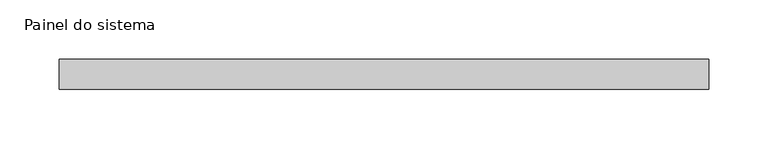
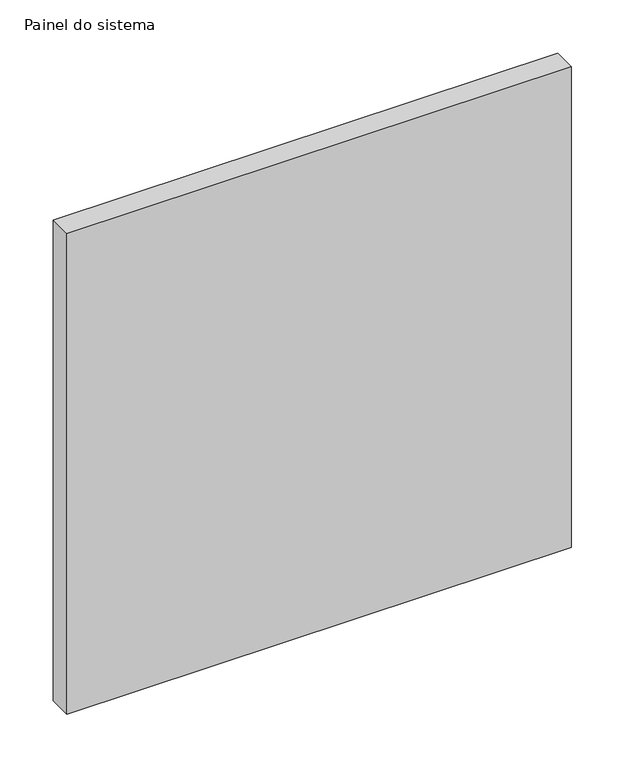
"""IFC4 building model written with IfcOpenShell, lengths in millimetres: plate geometry, Painel do sistema : Envidraçado."""

from ifc_helpers import new_model, si_unit, origin, origin_with_axes, place, context, project, spatial, polyline, outline, extrude, source, transform, mapped, element, save


def painel_do_sistema_eafe0930(model_context):
    return source(origin(), model_context, "Body", "SweptSolid", [
        extrude(outline(polyline([(272.9166667, 24.5), (-272.9166667, 24.5), (-272.9166667, 49.5), (272.9166667, 49.5), (272.9166667, 24.5)])), origin_with_axes(), (0.0, 0.0, 1.0), 550.0),
    ])


if __name__ == "__main__":
    model = new_model("IFC4")
    model_context = context("Model", 3, world=origin())
    ifc_project = project(units=[si_unit("LENGTHUNIT", "METRE", prefix="MILLI")], contexts=[model_context])
    site = spatial("IfcSite", under=ifc_project)
    building = spatial("IfcBuilding", under=site)
    placement = place(None, origin())
    painel_do_sistema_shape = painel_do_sistema_eafe0930(model_context)
    element("IfcPlate", 1, ObjectType="Painel do sistema : Envidraçado", at=placement, inside=building, context=model_context, shape_type="MappedRepresentation", body=[
        mapped(painel_do_sistema_shape, transform((0.0, 0.0, 0.0), x_axis=(1.0, 0.0, 0.0), y_axis=(0.0, 1.0, 0.0), z_axis=(0.0, 0.0, 1.0))),
    ])
    save(model, "model.ifc")
